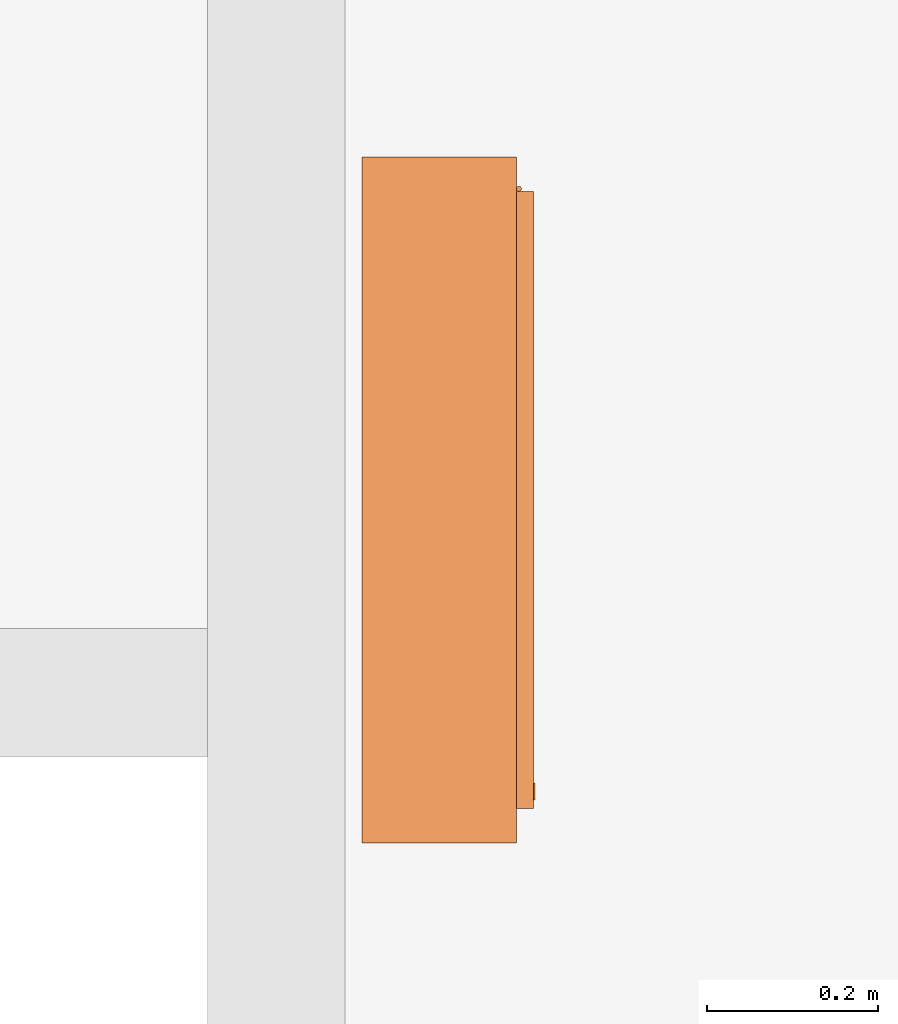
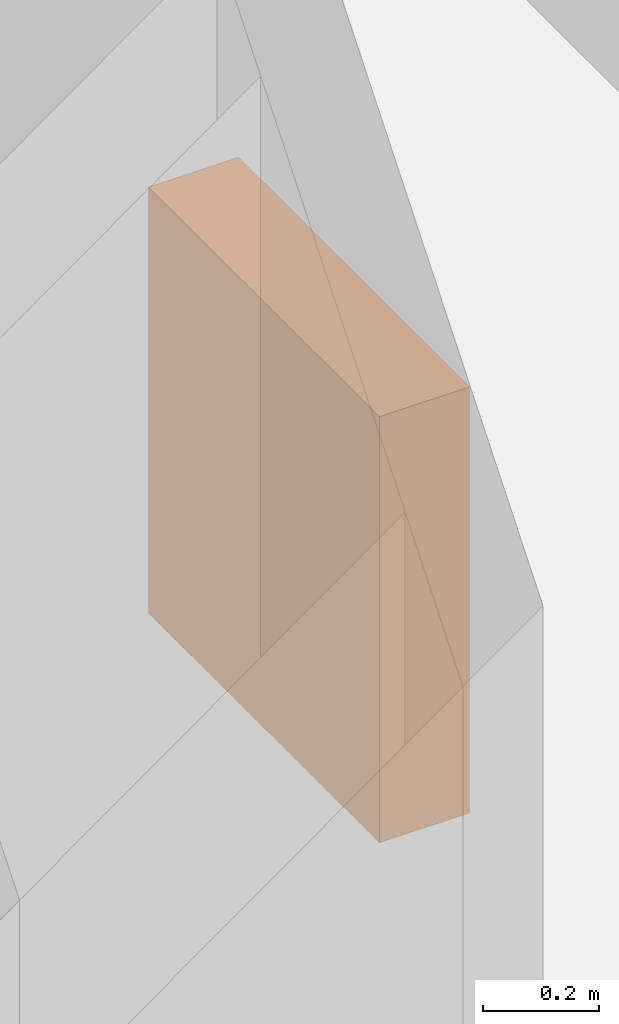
# One storey, part 13 of 66: 1 proxy.
"""IFC2X3 building model written with IfcOpenShell, lengths in millimetres."""

from ifc_helpers import new_model, entity, si_unit, converted_unit, derived_unit, money_unit, direction, frame, origin_with_axes, place, context, subcontext, project, spatial, faceted_brep, source, transform, mapped, type_object, element, save


model = new_model("IFC2X3")

# Units and contexts
model_context = context("Model", 3, precision=0.01, world=origin_with_axes(), true_north=direction((0.34421633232, 0.938890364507)))
body_context = subcontext(model_context, "Body", "Model", "MODEL_VIEW")
ifc_project = project(units=[si_unit("LENGTHUNIT", "METRE", prefix="MILLI"), si_unit("AREAUNIT", "SQUARE_METRE"), si_unit("VOLUMEUNIT", "CUBIC_METRE"), converted_unit("PLANEANGLEUNIT", "DEGREE", entity("IfcPlaneAngleMeasure", 0.0174532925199), si_unit("PLANEANGLEUNIT", "RADIAN"), dimensions=[0, 0, 0, 0, 0, 0, 0]), si_unit("SOLIDANGLEUNIT", "STERADIAN"), money_unit("USD"), converted_unit("TIMEUNIT", "Year", entity("IfcTimeMeasure", 31556926.0), si_unit("TIMEUNIT", "SECOND"), dimensions=[0, 0, 1, 0, 0, 0, 0]), si_unit("MASSUNIT", "GRAM", prefix="KILO"), si_unit("THERMODYNAMICTEMPERATUREUNIT", "DEGREE_CELSIUS"), si_unit("LUMINOUSINTENSITYUNIT", "LUMEN"), si_unit("ENERGYUNIT", "JOULE", prefix="MEGA"), derived_unit("THERMALCONDUCTANCEUNIT", [(si_unit("POWERUNIT", "WATT"), 1), (si_unit("LENGTHUNIT", "METRE"), -1), (si_unit("THERMODYNAMICTEMPERATUREUNIT", "KELVIN"), -1)]), derived_unit("SPECIFICHEATCAPACITYUNIT", [(si_unit("ENERGYUNIT", "JOULE"), 1), (si_unit("MASSUNIT", "GRAM", prefix="KILO"), -1), (si_unit("THERMODYNAMICTEMPERATUREUNIT", "KELVIN"), -1)]), derived_unit("MASSDENSITYUNIT", [(si_unit("MASSUNIT", "GRAM", prefix="KILO"), 1), (si_unit("VOLUMEUNIT", "CUBIC_METRE"), -1)])], contexts=[model_context])

# Site, building, storey
site_placement = place(None, origin_with_axes())
site = spatial("IfcSite", under=ifc_project, at=site_placement, Name="USTRONIE MORSKIE", CompositionType="ELEMENT")
building_placement = place(site_placement, origin_with_axes())
building = spatial("IfcBuilding", under=site, at=building_placement, Name="Budynek", CompositionType="ELEMENT")
storey_placement = place(building_placement, frame((0.0, 0.0, 10000.0), z_axis=(0.0, 0.0, 1.0), x_axis=(1.0, 0.0, 0.0)))
storey = spatial("IfcBuildingStorey", under=building, at=storey_placement, Name="PIĘTRO 3", CompositionType="ELEMENT", Elevation=10000.0)

# Proxy
building_element_proxy_type = type_object("IfcBuildingElementProxyType", Name="Skrzynka P-Poż 23", PredefinedType="NOTDEFINED")
shared_shape = source(origin_with_axes(), body_context, "Body", "Brep", [
    faceted_brep([(0.0, 40.0, 0.0), (0.0, 20.0, 0.0), (-800.0, 20.0, 0.0), (-800.0, 40.0, 0.0), (0.0, 40.0, 900.0), (0.0, 20.0, 900.0), (-800.0, 20.0, 900.0), (-60.0, 20.0, 60.0), (-740.0, 20.0, 60.0), (-740.0, 20.0, 840.0), (-60.0, 20.0, 840.0), (-800.0, 40.0, 900.0), (-60.0, 40.0, 60.0), (-60.0, 40.0, 840.0), (-740.0, 40.0, 840.0), (-740.0, 40.0, 60.0)], [[[0, 1, 2, 3]], [[4, 5, 1, 0]], [[1, 5, 6, 2], [7, 8, 9, 10]], [[3, 2, 6, 11]], [[0, 3, 11, 4], [12, 13, 14, 15]], [[11, 6, 5, 4]], [[15, 8, 7, 12]], [[14, 9, 8, 15]], [[13, 10, 9, 14]], [[12, 7, 10, 13]]]),
    faceted_brep([(-40.0, 20.0, 40.0), (-40.0, 0.0, 40.0), (-760.0, 0.0, 40.0), (-760.0, 20.0, 40.0), (-40.0, 20.0, 860.0), (-40.0, 0.0, 860.0), (-760.0, 0.0, 860.0), (-80.0, 0.0, 80.0), (-720.0, 0.0, 80.0), (-720.0, 0.0, 820.0), (-80.0, 0.0, 820.0), (-760.0, 20.0, 860.0), (-80.0, 20.0, 80.0), (-80.0, 20.0, 820.0), (-720.0, 20.0, 820.0), (-720.0, 20.0, 80.0)], [[[0, 1, 2, 3]], [[4, 5, 1, 0]], [[1, 5, 6, 2], [7, 8, 9, 10]], [[3, 2, 6, 11]], [[0, 3, 11, 4], [12, 13, 14, 15]], [[11, 6, 5, 4]], [[15, 8, 7, 12]], [[14, 9, 8, 15]], [[13, 10, 9, 14]], [[12, 7, 10, 13]]]),
    faceted_brep([(0.0, 180.0, 0.0), (0.0, 40.0, 0.0), (-800.0, 40.0, 0.0), (-800.0, 180.0, 0.0), (0.0, 180.0, 900.0), (0.0, 40.0, 900.0), (-800.0, 40.0, 900.0), (-20.0, 40.0, 20.0), (-780.0, 40.0, 20.0), (-780.0, 40.0, 880.0), (-20.0, 40.0, 880.0), (-800.0, 180.0, 900.0), (-20.0, 180.0, 20.0), (-20.0, 180.0, 880.0), (-780.0, 180.0, 880.0), (-780.0, 180.0, 20.0)], [[[0, 1, 2, 3]], [[4, 5, 1, 0]], [[1, 5, 6, 2], [7, 8, 9, 10]], [[3, 2, 6, 11]], [[0, 3, 11, 4], [12, 13, 14, 15]], [[11, 6, 5, 4]], [[15, 8, 7, 12]], [[14, 9, 8, 15]], [[13, 10, 9, 14]], [[12, 7, 10, 13]]]),
    faceted_brep([(0.0, 200.0, 0.0), (0.0, 180.0, 0.0), (-800.0, 180.0, 0.0), (-800.0, 200.0, 0.0), (0.0, 200.0, 900.0), (0.0, 180.0, 900.0), (-800.0, 180.0, 900.0), (-800.0, 200.0, 900.0)], [[[0, 1, 2, 3]], [[4, 5, 1, 0]], [[1, 5, 6, 2]], [[3, 2, 6, 7]], [[0, 3, 7, 4]], [[7, 6, 5, 4]]]),
    faceted_brep([(-80.0, 15.0, 80.0), (-80.0, 5.0, 80.0), (-720.0, 5.0, 80.0), (-720.0, 15.0, 80.0), (-80.0, 15.0, 820.0), (-80.0, 5.0, 820.0), (-720.0, 5.0, 820.0), (-720.0, 15.0, 820.0)], [[[0, 1, 2, 3]], [[4, 5, 1, 0]], [[1, 5, 6, 2]], [[3, 2, 6, 7]], [[0, 3, 7, 4]], [[7, 6, 5, 4]]]),
    faceted_brep([(-749.659258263, 0.0, 447.411809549), (-750.0, 0.0, 450.0), (-749.659258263, 0.0, 452.588190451), (-748.660254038, 0.0, 455.0), (-747.071067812, 0.0, 457.071067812), (-745.0, 0.0, 458.660254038), (-742.588190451, 0.0, 459.659258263), (-740.0, 0.0, 460.0), (-737.411809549, 0.0, 459.659258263), (-735.0, 0.0, 458.660254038), (-732.928932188, 0.0, 457.071067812), (-731.339745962, 0.0, 455.0), (-730.340741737, 0.0, 452.588190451), (-730.0, 0.0, 450.0), (-730.340741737, 0.0, 447.411809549), (-731.339745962, 0.0, 445.0), (-732.928932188, 0.0, 442.928932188), (-735.0, 0.0, 441.339745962), (-737.411809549, 0.0, 440.340741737), (-740.0, 0.0, 440.0), (-742.588190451, 0.0, 440.340741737), (-745.0, 0.0, 441.339745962), (-747.071067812, 0.0, 442.928932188), (-748.660254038, 0.0, 445.0), (-749.659258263, -2.0, 447.411809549), (-750.0, -2.0, 450.0), (-749.659258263, -2.0, 452.588190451), (-748.660254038, -2.0, 455.0), (-747.071067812, -2.0, 457.071067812), (-745.0, -2.0, 458.660254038), (-742.588190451, -2.0, 459.659258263), (-740.0, -2.0, 460.0), (-737.411809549, -2.0, 459.659258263), (-735.0, -2.0, 458.660254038), (-732.928932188, -2.0, 457.071067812), (-731.339745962, -2.0, 455.0), (-730.340741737, -2.0, 452.588190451), (-730.0, -2.0, 450.0), (-730.340741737, -2.0, 447.411809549), (-731.339745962, -2.0, 445.0), (-732.928932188, -2.0, 442.928932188), (-735.0, -2.0, 441.339745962), (-737.411809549, -2.0, 440.340741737), (-740.0, -2.0, 440.0), (-742.588190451, -2.0, 440.340741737), (-745.0, -2.0, 441.339745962), (-747.071067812, -2.0, 442.928932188), (-748.660254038, -2.0, 445.0)], [[[0, 1, 2, 3, 4, 5, 6, 7, 8, 9, 10, 11, 12, 13, 14, 15, 16, 17, 18, 19, 20, 21, 22, 23]], [[0, 24, 25, 1]], [[1, 25, 26, 2]], [[2, 26, 27, 3]], [[3, 27, 28, 4]], [[4, 28, 29, 5]], [[5, 29, 30, 6]], [[6, 30, 31, 7]], [[7, 31, 32, 8]], [[8, 32, 33, 9]], [[9, 33, 34, 10]], [[10, 34, 35, 11]], [[11, 35, 36, 12]], [[12, 36, 37, 13]], [[13, 37, 38, 14]], [[14, 38, 39, 15]], [[15, 39, 40, 16]], [[16, 40, 41, 17]], [[17, 41, 42, 18]], [[18, 42, 43, 19]], [[19, 43, 44, 20]], [[20, 44, 45, 21]], [[21, 45, 46, 22]], [[22, 46, 47, 23]], [[23, 47, 24, 0]], [[24, 47, 46, 45, 44, 43, 42, 41, 40, 39, 38, 37, 36, 35, 34, 33, 32, 31, 30, 29, 28, 27, 26, 25]]]),
    faceted_brep([(-39.8977774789, 16.2235428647, 80.0), (-40.0, 17.0, 80.0), (-39.8977774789, 17.7764571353, 80.0), (-39.5980762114, 18.5, 80.0), (-39.1213203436, 19.1213203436, 80.0), (-38.5, 19.5980762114, 80.0), (-37.7764571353, 19.8977774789, 80.0), (-37.0, 20.0, 80.0), (-36.2235428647, 19.8977774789, 80.0), (-35.5, 19.5980762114, 80.0), (-34.8786796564, 19.1213203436, 80.0), (-34.4019237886, 18.5, 80.0), (-34.1022225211, 17.7764571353, 80.0), (-34.0, 17.0, 80.0), (-34.1022225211, 16.2235428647, 80.0), (-34.4019237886, 15.5, 80.0), (-34.8786796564, 14.8786796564, 80.0), (-35.5, 14.4019237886, 80.0), (-36.2235428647, 14.1022225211, 80.0), (-37.0, 14.0, 80.0), (-37.7764571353, 14.1022225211, 80.0), (-38.5, 14.4019237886, 80.0), (-39.1213203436, 14.8786796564, 80.0), (-39.5980762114, 15.5, 80.0), (-39.8977774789, 16.2235428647, 120.0), (-40.0, 17.0, 120.0), (-39.8977774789, 17.7764571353, 120.0), (-39.5980762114, 18.5, 120.0), (-39.1213203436, 19.1213203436, 120.0), (-38.5, 19.5980762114, 120.0), (-37.7764571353, 19.8977774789, 120.0), (-37.0, 20.0, 120.0), (-36.2235428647, 19.8977774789, 120.0), (-35.5, 19.5980762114, 120.0), (-34.8786796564, 19.1213203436, 120.0), (-34.4019237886, 18.5, 120.0), (-34.1022225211, 17.7764571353, 120.0), (-34.0, 17.0, 120.0), (-34.1022225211, 16.2235428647, 120.0), (-34.4019237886, 15.5, 120.0), (-34.8786796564, 14.8786796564, 120.0), (-35.5, 14.4019237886, 120.0), (-36.2235428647, 14.1022225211, 120.0), (-37.0, 14.0, 120.0), (-37.7764571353, 14.1022225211, 120.0), (-38.5, 14.4019237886, 120.0), (-39.1213203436, 14.8786796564, 120.0), (-39.5980762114, 15.5, 120.0)], [[[0, 1, 2, 3, 4, 5, 6, 7, 8, 9, 10, 11, 12, 13, 14, 15, 16, 17, 18, 19, 20, 21, 22, 23]], [[0, 24, 25, 1]], [[1, 25, 26, 2]], [[2, 26, 27, 3]], [[3, 27, 28, 4]], [[4, 28, 29, 5]], [[5, 29, 30, 6]], [[6, 30, 31, 7]], [[7, 31, 32, 8]], [[8, 32, 33, 9]], [[9, 33, 34, 10]], [[10, 34, 35, 11]], [[11, 35, 36, 12]], [[12, 36, 37, 13]], [[13, 37, 38, 14]], [[14, 38, 39, 15]], [[15, 39, 40, 16]], [[16, 40, 41, 17]], [[17, 41, 42, 18]], [[18, 42, 43, 19]], [[19, 43, 44, 20]], [[20, 44, 45, 21]], [[21, 45, 46, 22]], [[22, 46, 47, 23]], [[23, 47, 24, 0]], [[24, 47, 46, 45, 44, 43, 42, 41, 40, 39, 38, 37, 36, 35, 34, 33, 32, 31, 30, 29, 28, 27, 26, 25]]]),
    faceted_brep([(-39.8977774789, 16.2235428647, 780.0), (-40.0, 17.0, 780.0), (-39.8977774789, 17.7764571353, 780.0), (-39.5980762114, 18.5, 780.0), (-39.1213203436, 19.1213203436, 780.0), (-38.5, 19.5980762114, 780.0), (-37.7764571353, 19.8977774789, 780.0), (-37.0, 20.0, 780.0), (-36.2235428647, 19.8977774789, 780.0), (-35.5, 19.5980762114, 780.0), (-34.8786796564, 19.1213203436, 780.0), (-34.4019237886, 18.5, 780.0), (-34.1022225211, 17.7764571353, 780.0), (-34.0, 17.0, 780.0), (-34.1022225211, 16.2235428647, 780.0), (-34.4019237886, 15.5, 780.0), (-34.8786796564, 14.8786796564, 780.0), (-35.5, 14.4019237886, 780.0), (-36.2235428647, 14.1022225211, 780.0), (-37.0, 14.0, 780.0), (-37.7764571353, 14.1022225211, 780.0), (-38.5, 14.4019237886, 780.0), (-39.1213203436, 14.8786796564, 780.0), (-39.5980762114, 15.5, 780.0), (-39.8977774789, 16.2235428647, 820.0), (-40.0, 17.0, 820.0), (-39.8977774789, 17.7764571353, 820.0), (-39.5980762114, 18.5, 820.0), (-39.1213203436, 19.1213203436, 820.0), (-38.5, 19.5980762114, 820.0), (-37.7764571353, 19.8977774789, 820.0), (-37.0, 20.0, 820.0), (-36.2235428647, 19.8977774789, 820.0), (-35.5, 19.5980762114, 820.0), (-34.8786796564, 19.1213203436, 820.0), (-34.4019237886, 18.5, 820.0), (-34.1022225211, 17.7764571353, 820.0), (-34.0, 17.0, 820.0), (-34.1022225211, 16.2235428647, 820.0), (-34.4019237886, 15.5, 820.0), (-34.8786796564, 14.8786796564, 820.0), (-35.5, 14.4019237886, 820.0), (-36.2235428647, 14.1022225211, 820.0), (-37.0, 14.0, 820.0), (-37.7764571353, 14.1022225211, 820.0), (-38.5, 14.4019237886, 820.0), (-39.1213203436, 14.8786796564, 820.0), (-39.5980762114, 15.5, 820.0)], [[[0, 1, 2, 3, 4, 5, 6, 7, 8, 9, 10, 11, 12, 13, 14, 15, 16, 17, 18, 19, 20, 21, 22, 23]], [[0, 24, 25, 1]], [[1, 25, 26, 2]], [[2, 26, 27, 3]], [[3, 27, 28, 4]], [[4, 28, 29, 5]], [[5, 29, 30, 6]], [[6, 30, 31, 7]], [[7, 31, 32, 8]], [[8, 32, 33, 9]], [[9, 33, 34, 10]], [[10, 34, 35, 11]], [[11, 35, 36, 12]], [[12, 36, 37, 13]], [[13, 37, 38, 14]], [[14, 38, 39, 15]], [[15, 39, 40, 16]], [[16, 40, 41, 17]], [[17, 41, 42, 18]], [[18, 42, 43, 19]], [[19, 43, 44, 20]], [[20, 44, 45, 21]], [[21, 45, 46, 22]], [[22, 46, 47, 23]], [[23, 47, 24, 0]], [[24, 47, 46, 45, 44, 43, 42, 41, 40, 39, 38, 37, 36, 35, 34, 33, 32, 31, 30, 29, 28, 27, 26, 25]]]),
])
proxy_placement = place(storey_placement, frame((357817.920919, 728201.202998, 600.0), z_axis=(0.0, 0.0, 1.0), x_axis=(0.0, 1.0, 0.0)))
element("IfcBuildingElementProxy", 1, at=proxy_placement, inside=storey, type_object=building_element_proxy_type, Name="OB3", context=body_context, shape_type="MappedRepresentation", body=[
    mapped(shared_shape, transform((0.0, 0.0, 0.0))),
])

save(model, "model.ifc")
